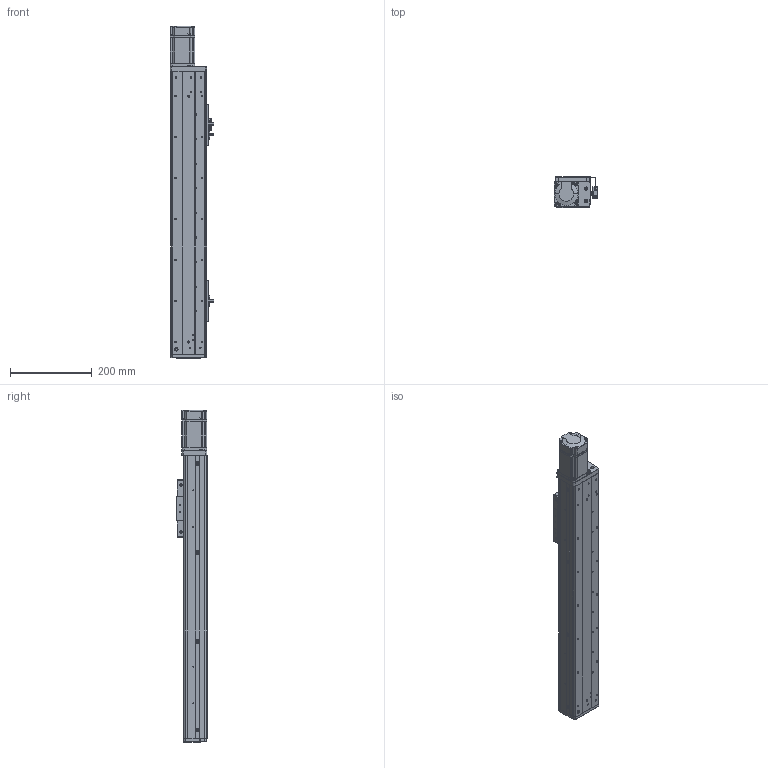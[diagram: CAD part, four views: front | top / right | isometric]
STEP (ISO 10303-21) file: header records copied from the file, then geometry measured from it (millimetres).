
FILE_DESCRIPTION (( 'STEP AP203' ), '1' );
FILE_NAME ('RY80F-L1610-300-MK.SLDASM_450.step', '2021-03-02T03:18:51', ( '盈信电脑' ), ( '东莞市道滘镇水果街19号' ), 'SwSTEP 2.0', 'SolidWorks 2012', '' );
FILE_SCHEMA (( 'CONFIG_CONTROL_DESIGN' ));
Length unit declared in the file: millimetre
Products named in the file (16): 覜茼ん672; RY80F-L1610-300-MK.SLDASM_450; 滅袉蝶18-24; 1; RY80俋离覜茼え; 侂狟200W萇儂; RY80F-詩湍揤踡輸; RY80F-綴裔啣(臏璃ㄘ; 672嫖萇羲壽假蚾釱; 蚥薯蝶紫輸; RY80F-佪裝眻蟀ヶ裔啣(200W PCD70 M4); RY80F-滅鳥裔啣; RY80F-300-祥凄詩湍-MK_450; RY80F-丝杆铝滑块(16丝杆）; RY80F-300丝杆直连型材盖板_450; RY80F-丝杆直连型材底座_450
Assembly tree (21 placements, depth 3):
  RY80F-L1610-300-MK.SLDASM_450
    RY80F-丝杆直连型材底座_450
    RY80F-300丝杆直连型材盖板_450  x2
    RY80F-丝杆铝滑块(16丝杆）
    RY80F-滅鳥裔啣
    RY80F-300-祥凄詩湍-MK_450
    RY80F-佪裝眻蟀ヶ裔啣(200W PCD70 M4)
    RY80F-詩湍揤踡輸  x2
    RY80F-綴裔啣(臏璃ㄘ
    672嫖萇羲壽假蚾釱  x2
    蚥薯蝶紫輸
    滅袉蝶18-24  x2
    侂狟200W萇儂
      1
    RY80俋离覜茼え
    覜茼ん672  x3
Bounding box: 107.2 x 75 x 810 mm (x, y, z)
Volume: 1648980.4 mm3; surface area: 629308.7 mm2
Topology: 20 solids, 20 shells, 1687 faces, 4650 edges, 3032 vertices
Faces by surface type: plane 803, cylinder 757, cone 109, bspline 18
Entity records: 48330 total; most frequent: CARTESIAN_POINT 10269, ORIENTED_EDGE 7572, DIRECTION 7570, EDGE_CURVE 3786, AXIS2_PLACEMENT_3D 2657, VERTEX_POINT 2484, LINE 2256, VECTOR 2256
